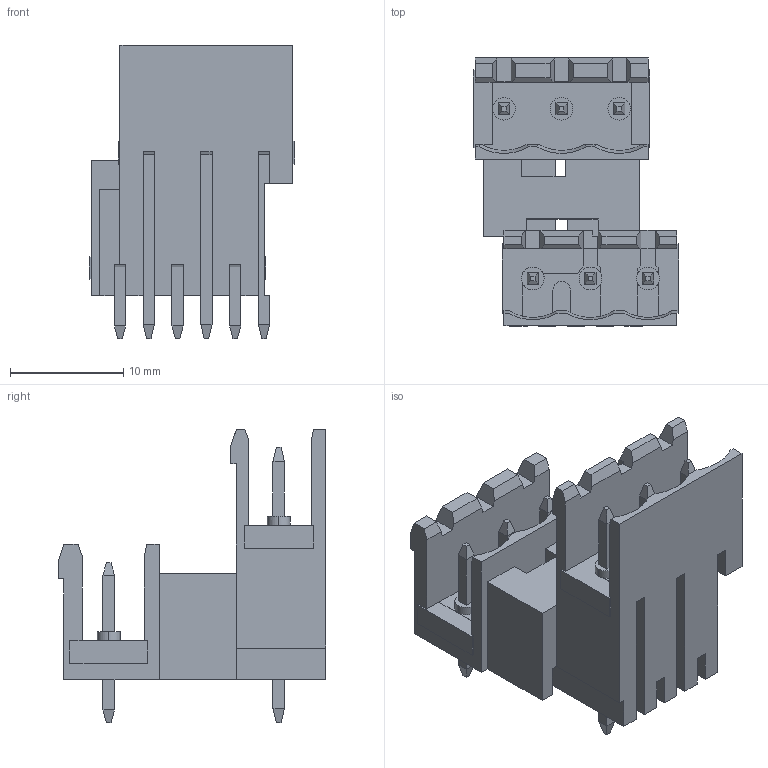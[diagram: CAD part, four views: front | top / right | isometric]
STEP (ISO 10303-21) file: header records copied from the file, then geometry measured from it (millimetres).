
FILE_DESCRIPTION((''),'2;1');
FILE_NAME('395382006','2015-02-24T',('me'),(''),'PRO/ENGINEER BY PARAMETRIC TECHNOLOGY CORPORATION, 2011490','PRO/ENGINEER BY PARAMETRIC TECHNOLOGY CORPORATION, 2011490','');
FILE_SCHEMA(('CONFIG_CONTROL_DESIGN'));
Length unit declared in the file: inch
Products named in the file (1): 395382006
Bounding box: 18.08 x 23.62 x 25.91 mm (x, y, z)
Volume: 3054.6 mm3; surface area: 3648.9 mm2
Topology: 1 solids, 1 shells, 327 faces, 882 edges, 574 vertices
Faces by surface type: plane 302, cylinder 19, cone 6
Entity records: 10043 total; most frequent: CARTESIAN_POINT 1810, ORIENTED_EDGE 1728, DIRECTION 1590, EDGE_CURVE 864, VECTOR 794, LINE 794, VERTEX_POINT 550, AXIS2_PLACEMENT_3D 398
